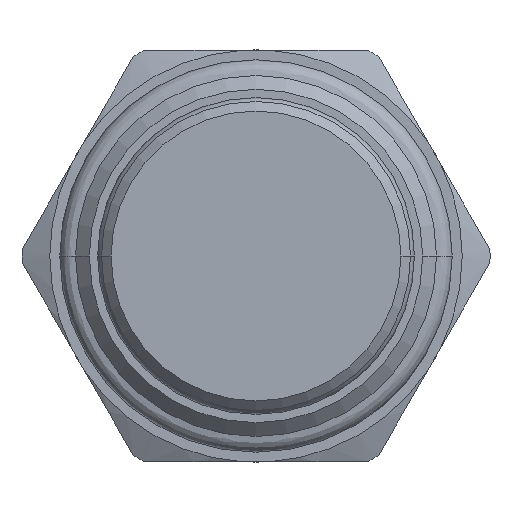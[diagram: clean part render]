
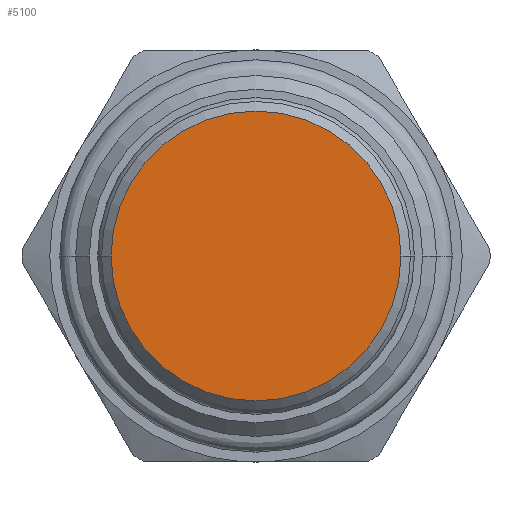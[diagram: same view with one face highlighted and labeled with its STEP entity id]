
A CAD part, front view. The second image highlights one B-rep face of the part: STEP entity #5100.
In plain terms, the highlighted planar face has unit normal (0, -1, 0).
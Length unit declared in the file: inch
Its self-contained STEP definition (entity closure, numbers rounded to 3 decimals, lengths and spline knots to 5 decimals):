
#2044=CARTESIAN_POINT('',(0.,-1.78751,0.));
#2045=DIRECTION('',(0.,1.,0.));
#2046=DIRECTION('',(1.,0.,0.));
#2047=AXIS2_PLACEMENT_3D('',#2044,#2045,#2046);
#2054=CARTESIAN_POINT('',(0.,-1.78751,0.));
#2055=DIRECTION('',(0.,1.,0.));
#2056=DIRECTION('',(-1.,0.,0.));
#2057=AXIS2_PLACEMENT_3D('',#2054,#2055,#2056);
#2119=CARTESIAN_POINT('',(0.527,-1.78751,0.));
#2120=CARTESIAN_POINT('',(-0.527,-1.78751,0.));
#2121=VERTEX_POINT('',#2119);
#2122=VERTEX_POINT('',#2120);
#5090=CARTESIAN_POINT('',(0.,-1.78751,0.));
#5091=DIRECTION('',(0.,1.,0.));
#5092=DIRECTION('',(1.,0.,0.));
#5093=AXIS2_PLACEMENT_3D('',#5090,#5091,#5092);
#5094=PLANE('',#5093);
#5095=ORIENTED_EDGE('',*,*,#5080,.T.);
#5097=ORIENTED_EDGE('',*,*,#5096,.T.);
#5098=EDGE_LOOP('',(#5095,#5097));
#5099=FACE_OUTER_BOUND('',#5098,.F.);
#5100=ADVANCED_FACE('',(#5099),#5094,.F.);
#2048=CIRCLE('',#2047,0.527);
#2058=CIRCLE('',#2057,0.527);
#5080=EDGE_CURVE('',#2121,#2122,#2048,.T.);
#5096=EDGE_CURVE('',#2122,#2121,#2058,.T.);
